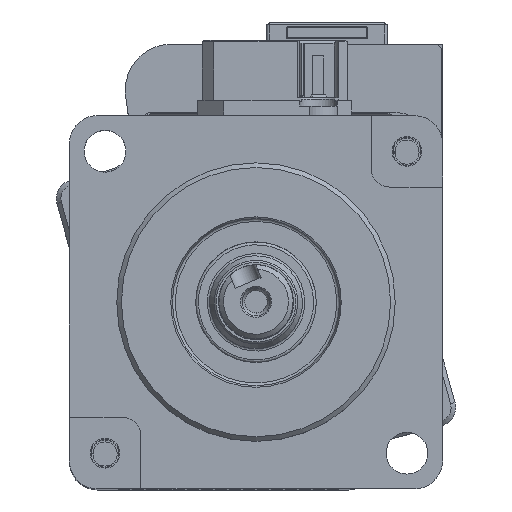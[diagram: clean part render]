
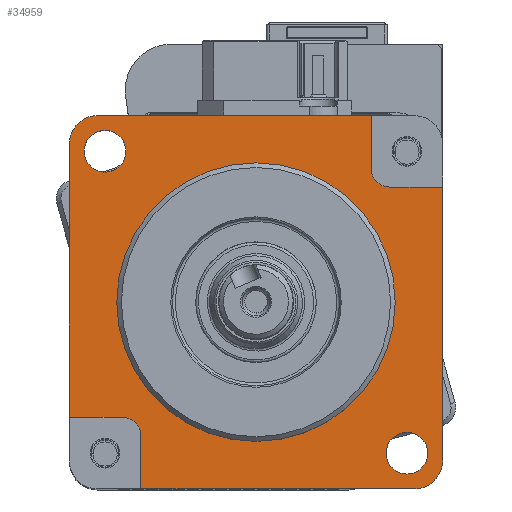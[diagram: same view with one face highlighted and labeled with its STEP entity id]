
A CAD part, top view. The second image highlights one B-rep face of the part: STEP entity #34959.
In plain terms, the highlighted planar face has unit normal (0, 0, 1).
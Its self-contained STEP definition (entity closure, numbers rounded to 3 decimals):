
#747 = ORIENTED_EDGE ( 'NONE', *, *, #34130, .T. ) ;
#851 = CARTESIAN_POINT ( 'NONE',  ( -12.4, -14.4, 8.9 ) ) ;
#1242 = AXIS2_PLACEMENT_3D ( 'NONE', #16612, #22395, #30954 ) ;
#1526 = LINE ( 'NONE', #21839, #30216 ) ;
#2245 = DIRECTION ( 'NONE',  ( -1., 0., 0. ) ) ;
#2324 = VERTEX_POINT ( 'NONE', #16676 ) ;
#2380 = FACE_BOUND ( 'NONE', #32731, .T. ) ;
#2582 = DIRECTION ( 'NONE',  ( 0., 0., 1. ) ) ;
#2805 = CARTESIAN_POINT ( 'NONE',  ( 18.513, -16.263, 8.9 ) ) ;
#3220 = CARTESIAN_POINT ( 'NONE',  ( 20.1, 12.4, 8.9 ) ) ;
#3443 = EDGE_LOOP ( 'NONE', ( #26101 ) ) ;
#3995 = VERTEX_POINT ( 'NONE', #10069 ) ;
#4119 = VERTEX_POINT ( 'NONE', #13760 ) ;
#4125 = CIRCLE ( 'NONE', #7094, 15. ) ;
#4800 = FACE_BOUND ( 'NONE', #13255, .T. ) ;
#4803 = CIRCLE ( 'NONE', #19129, 2.25 ) ;
#4817 = CARTESIAN_POINT ( 'NONE',  ( -20.1, 17.1, 8.9 ) ) ;
#4925 = DIRECTION ( 'NONE',  ( 0., -1., 0. ) ) ;
#5124 = DIRECTION ( 'NONE',  ( 1., 0., 0. ) ) ;
#5439 = CARTESIAN_POINT ( 'NONE',  ( 0., 20.1, 8.9 ) ) ;
#5509 = ORIENTED_EDGE ( 'NONE', *, *, #16617, .F. ) ;
#5533 = EDGE_CURVE ( 'NONE', #3995, #35059, #14731, .T. ) ;
#5575 = VECTOR ( 'NONE', #31984, 1000. ) ;
#6390 = EDGE_CURVE ( 'NONE', #32148, #21767, #22303, .T. ) ;
#7094 = AXIS2_PLACEMENT_3D ( 'NONE', #22556, #2582, #21990 ) ;
#8077 = DIRECTION ( 'NONE',  ( 1., 0., 0. ) ) ;
#8098 = ORIENTED_EDGE ( 'NONE', *, *, #6390, .F. ) ;
#8162 = ORIENTED_EDGE ( 'NONE', *, *, #19835, .F. ) ;
#8282 = EDGE_CURVE ( 'NONE', #4119, #2324, #26842, .T. ) ;
#8444 = DIRECTION ( 'NONE',  ( 0., 0., 1. ) ) ;
#8780 = VERTEX_POINT ( 'NONE', #20181 ) ;
#9562 = LINE ( 'NONE', #23751, #17624 ) ;
#9739 = VECTOR ( 'NONE', #19773, 1000. ) ;
#10069 = CARTESIAN_POINT ( 'NONE',  ( -12.4, -20.1, 8.9 ) ) ;
#10234 = EDGE_CURVE ( 'NONE', #17985, #28535, #26772, .T. ) ;
#10931 = CARTESIAN_POINT ( 'NONE',  ( 12.4, 14.4, 8.9 ) ) ;
#10947 = DIRECTION ( 'NONE',  ( 0., 0., 1. ) ) ;
#11329 = ORIENTED_EDGE ( 'NONE', *, *, #16696, .F. ) ;
#11375 = LINE ( 'NONE', #22765, #21882 ) ;
#11381 = VERTEX_POINT ( 'NONE', #2805 ) ;
#11518 = CARTESIAN_POINT ( 'NONE',  ( -17.1, 20.1, 8.9 ) ) ;
#11985 = CARTESIAN_POINT ( 'NONE',  ( 14.4, 14.4, 8.9 ) ) ;
#12650 = CARTESIAN_POINT ( 'NONE',  ( -17.1, -12.4, 8.9 ) ) ;
#13255 = EDGE_LOOP ( 'NONE', ( #8162 ) ) ;
#13330 = AXIS2_PLACEMENT_3D ( 'NONE', #11985, #20594, #28766 ) ;
#13454 = EDGE_CURVE ( 'NONE', #36190, #3995, #9562, .T. ) ;
#13551 = VECTOR ( 'NONE', #4925, 1000. ) ;
#13760 = CARTESIAN_POINT ( 'NONE',  ( -20.1, -12.4, 8.9 ) ) ;
#13802 = ORIENTED_EDGE ( 'NONE', *, *, #24279, .T. ) ;
#14030 = LINE ( 'NONE', #5439, #14273 ) ;
#14273 = VECTOR ( 'NONE', #14406, 1000. ) ;
#14406 = DIRECTION ( 'NONE',  ( -1., 0., 0. ) ) ;
#14612 = DIRECTION ( 'NONE',  ( 0., 0., 1. ) ) ;
#14731 = LINE ( 'NONE', #25920, #9739 ) ;
#15058 = EDGE_CURVE ( 'NONE', #16990, #16990, #4125, .T. ) ;
#15531 = EDGE_CURVE ( 'NONE', #11381, #11381, #31549, .T. ) ;
#15558 = CARTESIAN_POINT ( 'NONE',  ( 12.4, -17.1, 8.9 ) ) ;
#16145 = LINE ( 'NONE', #19142, #13551 ) ;
#16167 = DIRECTION ( 'NONE',  ( 1., 0., 0. ) ) ;
#16333 = EDGE_CURVE ( 'NONE', #36190, #25593, #17315, .T. ) ;
#16545 = VECTOR ( 'NONE', #24044, 1000. ) ;
#16612 = CARTESIAN_POINT ( 'NONE',  ( 17.1, -17.1, 8.9 ) ) ;
#16617 = EDGE_CURVE ( 'NONE', #35059, #2324, #28459, .T. ) ;
#16676 = CARTESIAN_POINT ( 'NONE',  ( -14.4, -12.4, 8.9 ) ) ;
#16696 = EDGE_CURVE ( 'NONE', #36756, #25593, #16145, .T. ) ;
#16855 = CARTESIAN_POINT ( 'NONE',  ( -16.263, 16.263, 8.9 ) ) ;
#16990 = VERTEX_POINT ( 'NONE', #28362 ) ;
#17315 = CIRCLE ( 'NONE', #1242, 3. ) ;
#17624 = VECTOR ( 'NONE', #32132, 1000. ) ;
#17985 = VERTEX_POINT ( 'NONE', #11518 ) ;
#19047 = EDGE_LOOP ( 'NONE', ( #20329, #22697, #5509, #22888, #19800, #29010, #11329, #13802, #8098, #28605, #747, #31081 ) ) ;
#19129 = AXIS2_PLACEMENT_3D ( 'NONE', #16855, #8444, #8077 ) ;
#19142 = CARTESIAN_POINT ( 'NONE',  ( 20.1, 0., 8.9 ) ) ;
#19375 = FACE_BOUND ( 'NONE', #3443, .T. ) ;
#19773 = DIRECTION ( 'NONE',  ( 0., 1., 0. ) ) ;
#19800 = ORIENTED_EDGE ( 'NONE', *, *, #13454, .F. ) ;
#19835 = EDGE_CURVE ( 'NONE', #8780, #8780, #4803, .T. ) ;
#19859 = DIRECTION ( 'NONE',  ( 0., 0., 1. ) ) ;
#20181 = CARTESIAN_POINT ( 'NONE',  ( -14.013, 16.263, 8.9 ) ) ;
#20329 = ORIENTED_EDGE ( 'NONE', *, *, #34437, .T. ) ;
#20594 = DIRECTION ( 'NONE',  ( 0., 0., 1. ) ) ;
#20791 = CARTESIAN_POINT ( 'NONE',  ( -17.1, 17.1, 8.9 ) ) ;
#21767 = VERTEX_POINT ( 'NONE', #32320 ) ;
#21839 = CARTESIAN_POINT ( 'NONE',  ( -20.1, 0., 8.9 ) ) ;
#21882 = VECTOR ( 'NONE', #2245, 1000. ) ;
#21990 = DIRECTION ( 'NONE',  ( 1., 0., 0. ) ) ;
#22303 = CIRCLE ( 'NONE', #13330, 2. ) ;
#22342 = FACE_OUTER_BOUND ( 'NONE', #19047, .T. ) ;
#22395 = DIRECTION ( 'NONE',  ( 0., 0., 1. ) ) ;
#22556 = CARTESIAN_POINT ( 'NONE',  ( 0., 0., 8.9 ) ) ;
#22697 = ORIENTED_EDGE ( 'NONE', *, *, #8282, .T. ) ;
#22765 = CARTESIAN_POINT ( 'NONE',  ( -17.1, 12.4, 8.9 ) ) ;
#22842 = CARTESIAN_POINT ( 'NONE',  ( 16.263, -16.263, 8.9 ) ) ;
#22888 = ORIENTED_EDGE ( 'NONE', *, *, #5533, .F. ) ;
#22914 = ORIENTED_EDGE ( 'NONE', *, *, #15058, .F. ) ;
#23751 = CARTESIAN_POINT ( 'NONE',  ( 0., -20.1, 8.9 ) ) ;
#24044 = DIRECTION ( 'NONE',  ( 1., 0., 0. ) ) ;
#24279 = EDGE_CURVE ( 'NONE', #36756, #21767, #11375, .T. ) ;
#24732 = CARTESIAN_POINT ( 'NONE',  ( -14.4, -14.4, 8.9 ) ) ;
#25144 = CARTESIAN_POINT ( 'NONE',  ( -17.1, -17.1, 8.9 ) ) ;
#25593 = VERTEX_POINT ( 'NONE', #27387 ) ;
#25920 = CARTESIAN_POINT ( 'NONE',  ( -12.4, -17.1, 8.9 ) ) ;
#26101 = ORIENTED_EDGE ( 'NONE', *, *, #15531, .F. ) ;
#26772 = CIRCLE ( 'NONE', #33897, 3. ) ;
#26842 = LINE ( 'NONE', #12650, #16545 ) ;
#27387 = CARTESIAN_POINT ( 'NONE',  ( 20.1, -17.1, 8.9 ) ) ;
#28362 = CARTESIAN_POINT ( 'NONE',  ( 15., 0., 8.9 ) ) ;
#28441 = VERTEX_POINT ( 'NONE', #29833 ) ;
#28459 = CIRCLE ( 'NONE', #29059, 2. ) ;
#28535 = VERTEX_POINT ( 'NONE', #4817 ) ;
#28605 = ORIENTED_EDGE ( 'NONE', *, *, #35066, .F. ) ;
#28766 = DIRECTION ( 'NONE',  ( 1., 0., 0. ) ) ;
#29010 = ORIENTED_EDGE ( 'NONE', *, *, #16333, .T. ) ;
#29059 = AXIS2_PLACEMENT_3D ( 'NONE', #24732, #36454, #5124 ) ;
#29688 = DIRECTION ( 'NONE',  ( 0., -1., 0. ) ) ;
#29759 = AXIS2_PLACEMENT_3D ( 'NONE', #22842, #19859, #16167 ) ;
#29833 = CARTESIAN_POINT ( 'NONE',  ( 12.4, 20.1, 8.9 ) ) ;
#30216 = VECTOR ( 'NONE', #29688, 1000. ) ;
#30533 = DIRECTION ( 'NONE',  ( 1., 0., 0. ) ) ;
#30954 = DIRECTION ( 'NONE',  ( 1., 0., 0. ) ) ;
#31081 = ORIENTED_EDGE ( 'NONE', *, *, #10234, .T. ) ;
#31549 = CIRCLE ( 'NONE', #29759, 2.25 ) ;
#31568 = DIRECTION ( 'NONE',  ( 1., 0., 0. ) ) ;
#31604 = PLANE ( 'NONE',  #35966 ) ;
#31984 = DIRECTION ( 'NONE',  ( 0., -1., 0. ) ) ;
#32132 = DIRECTION ( 'NONE',  ( -1., 0., 0. ) ) ;
#32148 = VERTEX_POINT ( 'NONE', #10931 ) ;
#32320 = CARTESIAN_POINT ( 'NONE',  ( 14.4, 12.4, 8.9 ) ) ;
#32731 = EDGE_LOOP ( 'NONE', ( #22914 ) ) ;
#33897 = AXIS2_PLACEMENT_3D ( 'NONE', #20791, #14612, #31568 ) ;
#34130 = EDGE_CURVE ( 'NONE', #28441, #17985, #14030, .T. ) ;
#34437 = EDGE_CURVE ( 'NONE', #28535, #4119, #1526, .T. ) ;
#34959 = ADVANCED_FACE ( 'NONE', ( #19375, #4800, #2380, #22342 ), #31604, .T. ) ;
#34974 = LINE ( 'NONE', #15558, #5575 ) ;
#35059 = VERTEX_POINT ( 'NONE', #851 ) ;
#35066 = EDGE_CURVE ( 'NONE', #28441, #32148, #34974, .T. ) ;
#35966 = AXIS2_PLACEMENT_3D ( 'NONE', #25144, #10947, #30533 ) ;
#36190 = VERTEX_POINT ( 'NONE', #36659 ) ;
#36454 = DIRECTION ( 'NONE',  ( 0., 0., 1. ) ) ;
#36659 = CARTESIAN_POINT ( 'NONE',  ( 17.1, -20.1, 8.9 ) ) ;
#36756 = VERTEX_POINT ( 'NONE', #3220 ) ;
